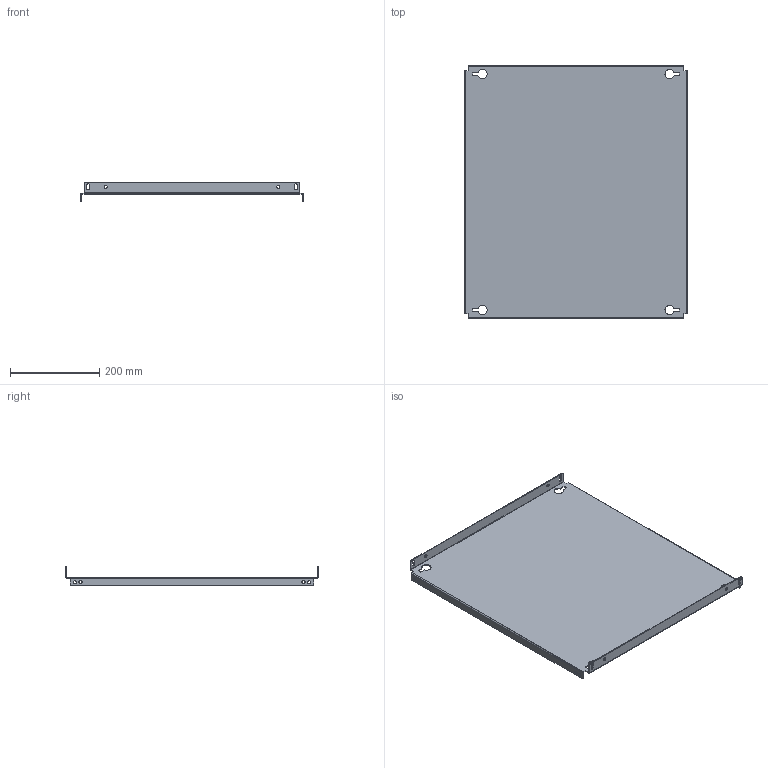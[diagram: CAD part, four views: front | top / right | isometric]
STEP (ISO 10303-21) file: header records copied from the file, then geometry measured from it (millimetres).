
FILE_DESCRIPTION (( 'STEP AP203' ), '1' );
FILE_NAME ('R5PPS6006.STEP', '2021-12-20T06:53:04', ( '' ), ( '' ), 'SwSTEP 2.0', 'SolidWorks 2020', '' );
FILE_SCHEMA (( 'CONFIG_CONTROL_DESIGN' ));
Length unit declared in the file: millimetre
Products named in the file (1): R5PPS6006
Bounding box: 500 x 569 x 43 mm (x, y, z)
Volume: 643714.4 mm3; surface area: 649817.3 mm2
Topology: 1 solids, 1 shells, 132 faces, 358 edges, 228 vertices
Faces by surface type: cylinder 74, plane 58
Entity records: 4331 total; most frequent: DIRECTION 772, CARTESIAN_POINT 719, ORIENTED_EDGE 716, EDGE_CURVE 358, AXIS2_PLACEMENT_3D 281, VERTEX_POINT 228, VECTOR 210, LINE 210
